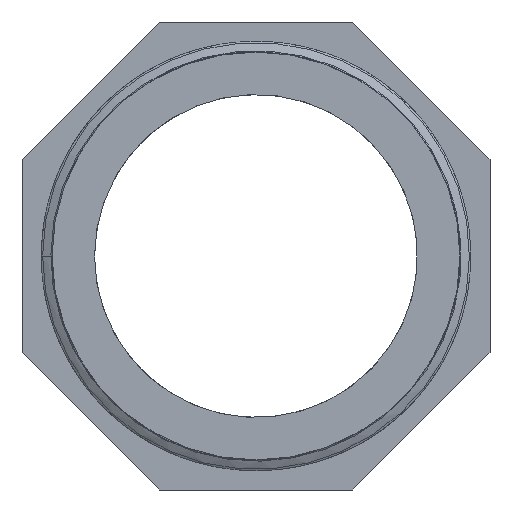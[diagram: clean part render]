
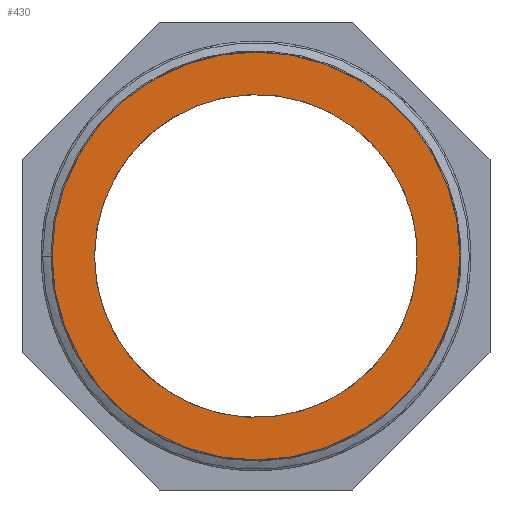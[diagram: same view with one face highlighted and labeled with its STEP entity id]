
A CAD part, front view. The second image highlights one B-rep face of the part: STEP entity #430.
In plain terms, the highlighted planar face has unit normal (0, -1, 0).
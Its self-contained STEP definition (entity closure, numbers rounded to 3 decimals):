
#17=FACE_BOUND('',#93,.T.);
#32=PLANE('',#455);
#37=CIRCLE('',#439,28.328);
#41=CIRCLE('',#454,22.423);
#65=FACE_OUTER_BOUND('',#92,.T.);
#92=EDGE_LOOP('',(#382));
#93=EDGE_LOOP('',(#383));
#186=VERTEX_POINT('',#3333);
#216=VERTEX_POINT('',#8411);
#234=EDGE_CURVE('',#186,#186,#37,.T.);
#276=EDGE_CURVE('',#216,#216,#41,.T.);
#382=ORIENTED_EDGE('',*,*,#234,.T.);
#383=ORIENTED_EDGE('',*,*,#276,.T.);
#430=ADVANCED_FACE('',(#65,#17),#32,.F.);
#439=AXIS2_PLACEMENT_3D('',#4941,#472,#473);
#454=AXIS2_PLACEMENT_3D('',#8412,#529,#530);
#455=AXIS2_PLACEMENT_3D('',#8413,#531,#532);
#472=DIRECTION('center_axis',(0.,-1.,0.));
#473=DIRECTION('ref_axis',(1.,0.,0.));
#529=DIRECTION('center_axis',(0.,1.,0.));
#530=DIRECTION('ref_axis',(1.,0.,0.));
#531=DIRECTION('center_axis',(0.,1.,0.));
#532=DIRECTION('ref_axis',(0.,0.,1.));
#3333=CARTESIAN_POINT('',(-28.328,0.,0.));
#4941=CARTESIAN_POINT('Origin',(0.,0.,0.));
#8411=CARTESIAN_POINT('',(-22.423,0.,0.));
#8412=CARTESIAN_POINT('Origin',(0.,0.,0.));
#8413=CARTESIAN_POINT('Origin',(0.,0.,0.));
